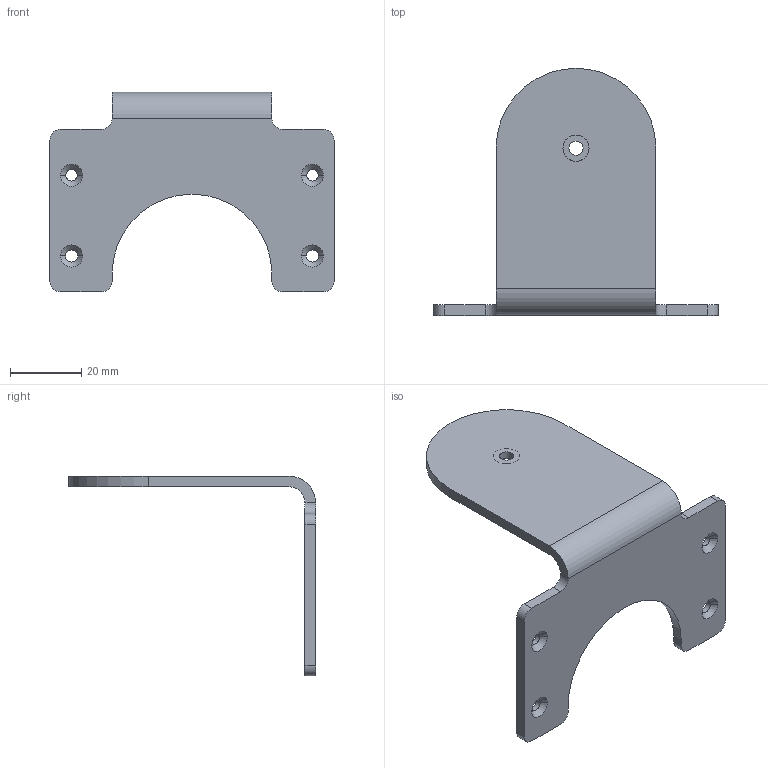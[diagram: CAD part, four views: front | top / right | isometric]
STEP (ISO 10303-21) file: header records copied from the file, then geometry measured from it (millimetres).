
FILE_DESCRIPTION((''),'2;1');
FILE_NAME('CU_BKT_ADAPTER_CRIO-9901','2008-09-24T',('chrisj'),(''),'PRO/ENGINEER BY PARAMETRIC TECHNOLOGY CORPORATION, 2006300','PRO/ENGINEER BY PARAMETRIC TECHNOLOGY CORPORATION, 2006300','');
FILE_SCHEMA(('AUTOMOTIVE_DESIGN_CC2 { 1 2 10303 214 -1 1 5 2 }'));
Length unit declared in the file: inch
Products named in the file (1): CU_BKT_ADAPTER_CRIO-9901
Bounding box: 80 x 69.57 x 56.25 mm (x, y, z)
Volume: 17080.2 mm3; surface area: 12905.5 mm2
Topology: 1 solids, 1 shells, 50 faces, 126 edges, 80 vertices
Faces by surface type: cylinder 26, plane 16, cone 8
Entity records: 1583 total; most frequent: DIRECTION 286, CARTESIAN_POINT 256, ORIENTED_EDGE 252, EDGE_CURVE 126, AXIS2_PLACEMENT_3D 110, VERTEX_POINT 80, VECTOR 66, LINE 66
